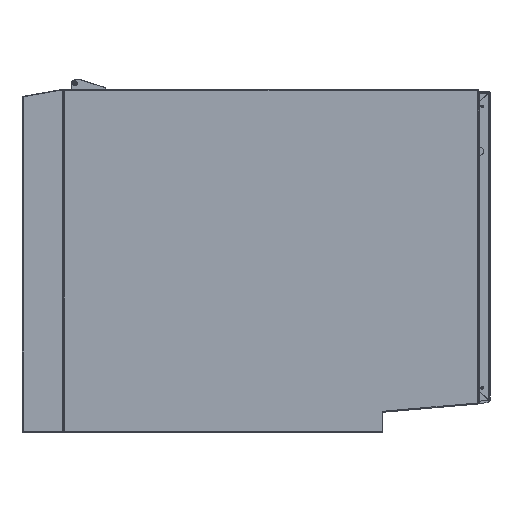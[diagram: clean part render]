
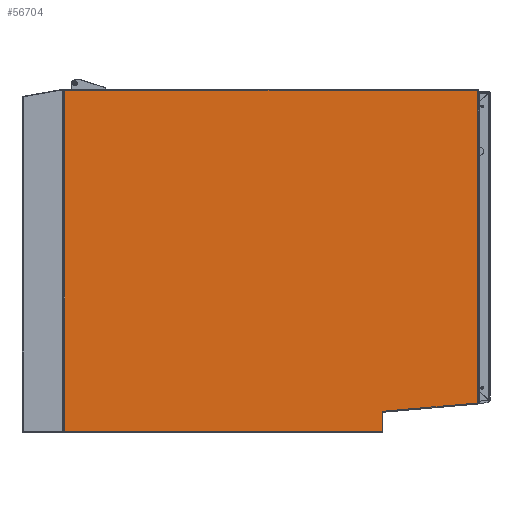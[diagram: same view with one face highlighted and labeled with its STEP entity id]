
A CAD part, left-side view. The second image highlights one B-rep face of the part: STEP entity #56704.
In plain terms, the highlighted planar face has unit normal (-1, 0, 0).
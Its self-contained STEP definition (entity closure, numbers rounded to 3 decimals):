
#537 = VECTOR ( 'NONE', #30270, 1000. ) ;
#590 = LINE ( 'NONE', #45627, #537 ) ;
#656 = LINE ( 'NONE', #61149, #797 ) ;
#708 = AXIS2_PLACEMENT_3D ( 'NONE', #66268, #66198, #66114 ) ;
#797 = VECTOR ( 'NONE', #25008, 1000. ) ;
#827 = CARTESIAN_POINT ( 'NONE',  ( 0., 168.5, -298.2 ) ) ;
#828 = CARTESIAN_POINT ( 'NONE',  ( 0., 168.5, 300. ) ) ;
#920 = CARTESIAN_POINT ( 'NONE',  ( 0., 168.098, -262.682 ) ) ;
#1603 = CARTESIAN_POINT ( 'NONE',  ( 0., 168.571, -263.802 ) ) ;
#1730 = VECTOR ( 'NONE', #60267, 1000. ) ;
#1748 = CARTESIAN_POINT ( 'NONE',  ( 0., 168.571, -264.052 ) ) ;
#1888 = LINE ( 'NONE', #3330, #2011 ) ;
#2011 = VECTOR ( 'NONE', #39780, 1000. ) ;
#2201 = LINE ( 'NONE', #65432, #1730 ) ;
#3280 = CARTESIAN_POINT ( 'NONE',  ( 0., 1.8, 298.2 ) ) ;
#3330 = CARTESIAN_POINT ( 'NONE',  ( 0., 221.588, 344.13 ) ) ;
#3453 = CIRCLE ( 'NONE', #708, 0.25 ) ;
#3660 = LINE ( 'NONE', #22542, #3792 ) ;
#3724 = CIRCLE ( 'NONE', #14979, 0.25 ) ;
#3792 = VECTOR ( 'NONE', #58748, 1000. ) ;
#4261 = CARTESIAN_POINT ( 'NONE',  ( 0., 168.395, -263.874 ) ) ;
#4515 = VECTOR ( 'NONE', #32151, 1000. ) ;
#4579 = LINE ( 'NONE', #828, #4515 ) ;
#4784 = VECTOR ( 'NONE', #47482, 1000. ) ;
#4982 = LINE ( 'NONE', #11181, #4784 ) ;
#5598 = CARTESIAN_POINT ( 'NONE',  ( 0., 724.2, 298.2 ) ) ;
#6225 = EDGE_CURVE ( 'NONE', #43526, #37919, #3453, .T. ) ;
#6829 = VECTOR ( 'NONE', #19621, 1000. ) ;
#6891 = LINE ( 'NONE', #55805, #6829 ) ;
#7020 = DIRECTION ( 'NONE',  ( 0., 0., 1. ) ) ;
#7393 = ORIENTED_EDGE ( 'NONE', *, *, #28330, .F. ) ;
#7455 = VECTOR ( 'NONE', #39855, 1000. ) ;
#7539 = LINE ( 'NONE', #18964, #7455 ) ;
#7965 = VECTOR ( 'NONE', #49974, 1000. ) ;
#8089 = LINE ( 'NONE', #29219, #7965 ) ;
#8279 = VERTEX_POINT ( 'NONE', #20523 ) ;
#10144 = VERTEX_POINT ( 'NONE', #827 ) ;
#10538 = ORIENTED_EDGE ( 'NONE', *, *, #28729, .F. ) ;
#11174 = VECTOR ( 'NONE', #19676, 1000. ) ;
#11181 = CARTESIAN_POINT ( 'NONE',  ( 0., 726., -298.2 ) ) ;
#11309 = LINE ( 'NONE', #24922, #11174 ) ;
#11511 = PLANE ( 'NONE',  #44609 ) ;
#14979 = AXIS2_PLACEMENT_3D ( 'NONE', #1748, #38206, #7020 ) ;
#15593 = ORIENTED_EDGE ( 'NONE', *, *, #28318, .T. ) ;
#16708 = DIRECTION ( 'NONE',  ( 0., 0., 1. ) ) ;
#16882 = CARTESIAN_POINT ( 'NONE',  ( 0., 1.8, -249.538 ) ) ;
#18964 = CARTESIAN_POINT ( 'NONE',  ( 0., 0., 298.2 ) ) ;
#19621 = DIRECTION ( 'NONE',  ( 0., 0., -1. ) ) ;
#19676 = DIRECTION ( 'NONE',  ( 0., -0.087, -0.996 ) ) ;
#20523 = CARTESIAN_POINT ( 'NONE',  ( 0., 168.5, -264.476 ) ) ;
#22542 = CARTESIAN_POINT ( 'NONE',  ( 0., 163.091, -269.886 ) ) ;
#22707 = ORIENTED_EDGE ( 'NONE', *, *, #28418, .F. ) ;
#23005 = ORIENTED_EDGE ( 'NONE', *, *, #28107, .T. ) ;
#23384 = ORIENTED_EDGE ( 'NONE', *, *, #28617, .T. ) ;
#23783 = ORIENTED_EDGE ( 'NONE', *, *, #28031, .T. ) ;
#23965 = VERTEX_POINT ( 'NONE', #3280 ) ;
#24850 = CARTESIAN_POINT ( 'NONE',  ( 0., 168.063, -263.081 ) ) ;
#24922 = CARTESIAN_POINT ( 'NONE',  ( 0., 55.014, 358.704 ) ) ;
#25008 = DIRECTION ( 'NONE',  ( 0., 0.996, -0.087 ) ) ;
#25789 = ORIENTED_EDGE ( 'NONE', *, *, #28720, .T. ) ;
#27710 = EDGE_CURVE ( 'NONE', #63390, #64784, #11309, .T. ) ;
#28028 = EDGE_CURVE ( 'NONE', #64784, #23965, #8089, .T. ) ;
#28031 = EDGE_CURVE ( 'NONE', #23965, #39610, #7539, .T. ) ;
#28107 = EDGE_CURVE ( 'NONE', #39610, #52309, #6891, .T. ) ;
#28318 = EDGE_CURVE ( 'NONE', #52309, #10144, #4982, .T. ) ;
#28330 = EDGE_CURVE ( 'NONE', #8279, #10144, #4579, .T. ) ;
#28418 = EDGE_CURVE ( 'NONE', #31822, #8279, #3660, .T. ) ;
#28429 = EDGE_CURVE ( 'NONE', #37919, #31822, #3724, .T. ) ;
#28483 = ORIENTED_EDGE ( 'NONE', *, *, #6225, .F. ) ;
#28614 = EDGE_CURVE ( 'NONE', #43526, #43792, #1888, .T. ) ;
#28617 = EDGE_CURVE ( 'NONE', #43792, #56708, #2201, .T. ) ;
#28720 = EDGE_CURVE ( 'NONE', #56708, #48502, #590, .T. ) ;
#28729 = EDGE_CURVE ( 'NONE', #63390, #48502, #656, .T. ) ;
#29219 = CARTESIAN_POINT ( 'NONE',  ( 0., 1.8, -300. ) ) ;
#30270 = DIRECTION ( 'NONE',  ( 0., -0.087, -0.996 ) ) ;
#31017 = ORIENTED_EDGE ( 'NONE', *, *, #28028, .T. ) ;
#31822 = VERTEX_POINT ( 'NONE', #43171 ) ;
#31907 = ORIENTED_EDGE ( 'NONE', *, *, #27710, .T. ) ;
#32151 = DIRECTION ( 'NONE',  ( 0., 0., -1. ) ) ;
#32305 = CARTESIAN_POINT ( 'NONE',  ( 0., 168.496, -262.717 ) ) ;
#33312 = ORIENTED_EDGE ( 'NONE', *, *, #28429, .F. ) ;
#37919 = VERTEX_POINT ( 'NONE', #1603 ) ;
#38206 = DIRECTION ( 'NONE',  ( -1., 0., 0. ) ) ;
#39610 = VERTEX_POINT ( 'NONE', #5598 ) ;
#39780 = DIRECTION ( 'NONE',  ( 0., 0.087, 0.996 ) ) ;
#39855 = DIRECTION ( 'NONE',  ( 0., 1., 0. ) ) ;
#42244 = ORIENTED_EDGE ( 'NONE', *, *, #28614, .T. ) ;
#43171 = CARTESIAN_POINT ( 'NONE',  ( 0., 168.747, -264.229 ) ) ;
#43526 = VERTEX_POINT ( 'NONE', #4261 ) ;
#43792 = VERTEX_POINT ( 'NONE', #32305 ) ;
#44609 = AXIS2_PLACEMENT_3D ( 'NONE', #63073, #47786, #16708 ) ;
#45627 = CARTESIAN_POINT ( 'NONE',  ( 0., 221.19, 344.165 ) ) ;
#47482 = DIRECTION ( 'NONE',  ( 0., -1., 0. ) ) ;
#47786 = DIRECTION ( 'NONE',  ( 1., 0., 0. ) ) ;
#48502 = VERTEX_POINT ( 'NONE', #24850 ) ;
#49491 = CARTESIAN_POINT ( 'NONE',  ( 0., 724.2, -298.2 ) ) ;
#49974 = DIRECTION ( 'NONE',  ( 0., 0., 1. ) ) ;
#52309 = VERTEX_POINT ( 'NONE', #49491 ) ;
#52667 = CARTESIAN_POINT ( 'NONE',  ( 0., 1.887, -248.542 ) ) ;
#55051 = EDGE_LOOP ( 'NONE', ( #31907, #31017, #23783, #23005, #15593, #7393, #22707, #33312, #28483, #42244, #23384, #25789, #10538 ) ) ;
#55805 = CARTESIAN_POINT ( 'NONE',  ( 0., 724.2, 3930. ) ) ;
#56704 = ADVANCED_FACE ( 'NONE', ( #66783 ), #11511, .F. ) ;
#56708 = VERTEX_POINT ( 'NONE', #920 ) ;
#58748 = DIRECTION ( 'NONE',  ( 0., -0.707, -0.707 ) ) ;
#60267 = DIRECTION ( 'NONE',  ( 0., -0.996, 0.087 ) ) ;
#61149 = CARTESIAN_POINT ( 'NONE',  ( 0., 1.887, -248.542 ) ) ;
#63073 = CARTESIAN_POINT ( 'NONE',  ( 0., 726., 300. ) ) ;
#63390 = VERTEX_POINT ( 'NONE', #52667 ) ;
#64784 = VERTEX_POINT ( 'NONE', #16882 ) ;
#65432 = CARTESIAN_POINT ( 'NONE',  ( 0., 672.908, -306.847 ) ) ;
#66114 = DIRECTION ( 'NONE',  ( 0., 0., 1. ) ) ;
#66198 = DIRECTION ( 'NONE',  ( -1., 0., 0. ) ) ;
#66268 = CARTESIAN_POINT ( 'NONE',  ( 0., 168.571, -264.052 ) ) ;
#66783 = FACE_OUTER_BOUND ( 'NONE', #55051, .T. ) ;
